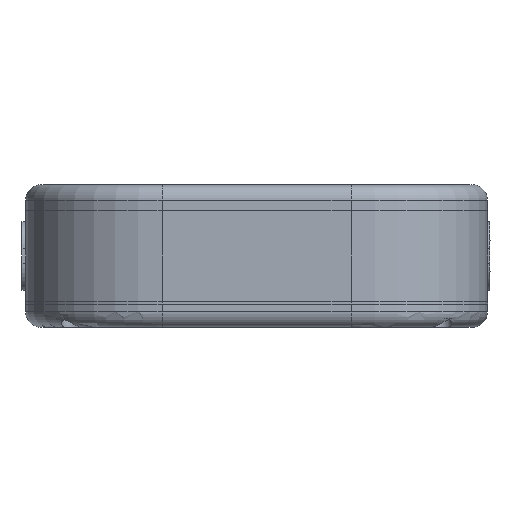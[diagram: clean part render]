
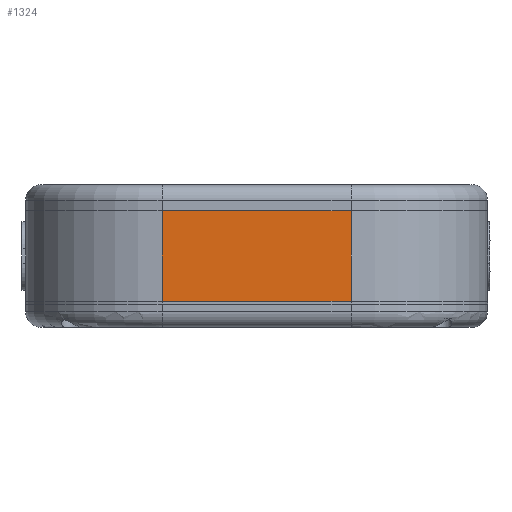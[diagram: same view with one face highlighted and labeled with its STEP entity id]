
A CAD part, front view. The second image highlights one B-rep face of the part: STEP entity #1324.
In plain terms, the highlighted planar face has unit normal (0, -1, 0).
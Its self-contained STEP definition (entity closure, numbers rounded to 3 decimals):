
#210 = CYLINDRICAL_SURFACE('',#211,26.);
#211 = AXIS2_PLACEMENT_3D('',#212,#213,#214);
#212 = CARTESIAN_POINT('',(-18.,-42.,-13.6));
#213 = DIRECTION('',(0.,0.,1.));
#214 = DIRECTION('',(-1.,-0.,0.));
#475 = VERTEX_POINT('',#476);
#476 = CARTESIAN_POINT('',(-18.,-68.,-8.6));
#503 = EDGE_CURVE('',#475,#504,#506,.T.);
#504 = VERTEX_POINT('',#505);
#505 = CARTESIAN_POINT('',(-18.,-68.,8.6));
#506 = SURFACE_CURVE('',#507,(#511,#518),.PCURVE_S1.);
#507 = LINE('',#508,#509);
#508 = CARTESIAN_POINT('',(-18.,-68.,-13.6));
#509 = VECTOR('',#510,1.);
#510 = DIRECTION('',(0.,0.,1.));
#511 = PCURVE('',#210,#512);
#512 = DEFINITIONAL_REPRESENTATION('',(#513),#517);
#513 = LINE('',#514,#515);
#514 = CARTESIAN_POINT('',(1.571,0.));
#515 = VECTOR('',#516,1.);
#516 = DIRECTION('',(0.,1.));
#517 = ( GEOMETRIC_REPRESENTATION_CONTEXT(2) 
PARAMETRIC_REPRESENTATION_CONTEXT() REPRESENTATION_CONTEXT('2D SPACE',''
  ) );
#518 = PCURVE('',#519,#524);
#519 = PLANE('',#520);
#520 = AXIS2_PLACEMENT_3D('',#521,#522,#523);
#521 = CARTESIAN_POINT('',(-44.,-68.,-13.6));
#522 = DIRECTION('',(0.,1.,0.));
#523 = DIRECTION('',(0.,-0.,1.));
#524 = DEFINITIONAL_REPRESENTATION('',(#525),#529);
#525 = LINE('',#526,#527);
#526 = CARTESIAN_POINT('',(0.,26.));
#527 = VECTOR('',#528,1.);
#528 = DIRECTION('',(1.,0.));
#529 = ( GEOMETRIC_REPRESENTATION_CONTEXT(2) 
PARAMETRIC_REPRESENTATION_CONTEXT() REPRESENTATION_CONTEXT('2D SPACE',''
  ) );
#1285 = PLANE('',#1286);
#1286 = AXIS2_PLACEMENT_3D('',#1287,#1288,#1289);
#1287 = CARTESIAN_POINT('',(-18.,-68.,-13.6));
#1288 = DIRECTION('',(0.,1.,0.));
#1289 = DIRECTION('',(1.,0.,0.));
#1324 = ADVANCED_FACE('',(#1325),#519,.F.);
#1325 = FACE_BOUND('',#1326,.F.);
#1326 = EDGE_LOOP('',(#1327,#1328,#1356,#1384));
#1327 = ORIENTED_EDGE('',*,*,#503,.T.);
#1328 = ORIENTED_EDGE('',*,*,#1329,.F.);
#1329 = EDGE_CURVE('',#1330,#504,#1332,.T.);
#1330 = VERTEX_POINT('',#1331);
#1331 = CARTESIAN_POINT('',(18.,-68.,8.6));
#1332 = SURFACE_CURVE('',#1333,(#1337,#1344),.PCURVE_S1.);
#1333 = LINE('',#1334,#1335);
#1334 = CARTESIAN_POINT('',(18.,-68.,8.6));
#1335 = VECTOR('',#1336,1.);
#1336 = DIRECTION('',(-1.,-0.,-0.));
#1337 = PCURVE('',#519,#1338);
#1338 = DEFINITIONAL_REPRESENTATION('',(#1339),#1343);
#1339 = LINE('',#1340,#1341);
#1340 = CARTESIAN_POINT('',(22.2,62.));
#1341 = VECTOR('',#1342,1.);
#1342 = DIRECTION('',(0.,-1.));
#1343 = ( GEOMETRIC_REPRESENTATION_CONTEXT(2) 
PARAMETRIC_REPRESENTATION_CONTEXT() REPRESENTATION_CONTEXT('2D SPACE',''
  ) );
#1344 = PCURVE('',#1345,#1350);
#1345 = PLANE('',#1346);
#1346 = AXIS2_PLACEMENT_3D('',#1347,#1348,#1349);
#1347 = CARTESIAN_POINT('',(-18.,-68.,-13.6));
#1348 = DIRECTION('',(0.,1.,0.));
#1349 = DIRECTION('',(1.,0.,0.));
#1350 = DEFINITIONAL_REPRESENTATION('',(#1351),#1355);
#1351 = LINE('',#1352,#1353);
#1352 = CARTESIAN_POINT('',(36.,-22.2));
#1353 = VECTOR('',#1354,1.);
#1354 = DIRECTION('',(-1.,0.));
#1355 = ( GEOMETRIC_REPRESENTATION_CONTEXT(2) 
PARAMETRIC_REPRESENTATION_CONTEXT() REPRESENTATION_CONTEXT('2D SPACE',''
  ) );
#1356 = ORIENTED_EDGE('',*,*,#1357,.F.);
#1357 = EDGE_CURVE('',#1358,#1330,#1360,.T.);
#1358 = VERTEX_POINT('',#1359);
#1359 = CARTESIAN_POINT('',(18.,-68.,-8.6));
#1360 = SURFACE_CURVE('',#1361,(#1365,#1372),.PCURVE_S1.);
#1361 = LINE('',#1362,#1363);
#1362 = CARTESIAN_POINT('',(18.,-68.,-13.6));
#1363 = VECTOR('',#1364,1.);
#1364 = DIRECTION('',(0.,0.,1.));
#1365 = PCURVE('',#519,#1366);
#1366 = DEFINITIONAL_REPRESENTATION('',(#1367),#1371);
#1367 = LINE('',#1368,#1369);
#1368 = CARTESIAN_POINT('',(0.,62.));
#1369 = VECTOR('',#1370,1.);
#1370 = DIRECTION('',(1.,0.));
#1371 = ( GEOMETRIC_REPRESENTATION_CONTEXT(2) 
PARAMETRIC_REPRESENTATION_CONTEXT() REPRESENTATION_CONTEXT('2D SPACE',''
  ) );
#1372 = PCURVE('',#1373,#1378);
#1373 = CYLINDRICAL_SURFACE('',#1374,26.);
#1374 = AXIS2_PLACEMENT_3D('',#1375,#1376,#1377);
#1375 = CARTESIAN_POINT('',(18.,-42.,-13.6));
#1376 = DIRECTION('',(0.,0.,1.));
#1377 = DIRECTION('',(1.,0.,-0.));
#1378 = DEFINITIONAL_REPRESENTATION('',(#1379),#1383);
#1379 = LINE('',#1380,#1381);
#1380 = CARTESIAN_POINT('',(4.712,0.));
#1381 = VECTOR('',#1382,1.);
#1382 = DIRECTION('',(-0.,1.));
#1383 = ( GEOMETRIC_REPRESENTATION_CONTEXT(2) 
PARAMETRIC_REPRESENTATION_CONTEXT() REPRESENTATION_CONTEXT('2D SPACE',''
  ) );
#1384 = ORIENTED_EDGE('',*,*,#1385,.T.);
#1385 = EDGE_CURVE('',#1358,#475,#1386,.T.);
#1386 = SURFACE_CURVE('',#1387,(#1391,#1398),.PCURVE_S1.);
#1387 = LINE('',#1388,#1389);
#1388 = CARTESIAN_POINT('',(18.,-68.,-8.6));
#1389 = VECTOR('',#1390,1.);
#1390 = DIRECTION('',(-1.,-0.,-0.));
#1391 = PCURVE('',#519,#1392);
#1392 = DEFINITIONAL_REPRESENTATION('',(#1393),#1397);
#1393 = LINE('',#1394,#1395);
#1394 = CARTESIAN_POINT('',(5.,62.));
#1395 = VECTOR('',#1396,1.);
#1396 = DIRECTION('',(0.,-1.));
#1397 = ( GEOMETRIC_REPRESENTATION_CONTEXT(2) 
PARAMETRIC_REPRESENTATION_CONTEXT() REPRESENTATION_CONTEXT('2D SPACE',''
  ) );
#1398 = PCURVE('',#1285,#1399);
#1399 = DEFINITIONAL_REPRESENTATION('',(#1400),#1404);
#1400 = LINE('',#1401,#1402);
#1401 = CARTESIAN_POINT('',(36.,-5.));
#1402 = VECTOR('',#1403,1.);
#1403 = DIRECTION('',(-1.,0.));
#1404 = ( GEOMETRIC_REPRESENTATION_CONTEXT(2) 
PARAMETRIC_REPRESENTATION_CONTEXT() REPRESENTATION_CONTEXT('2D SPACE',''
  ) );
